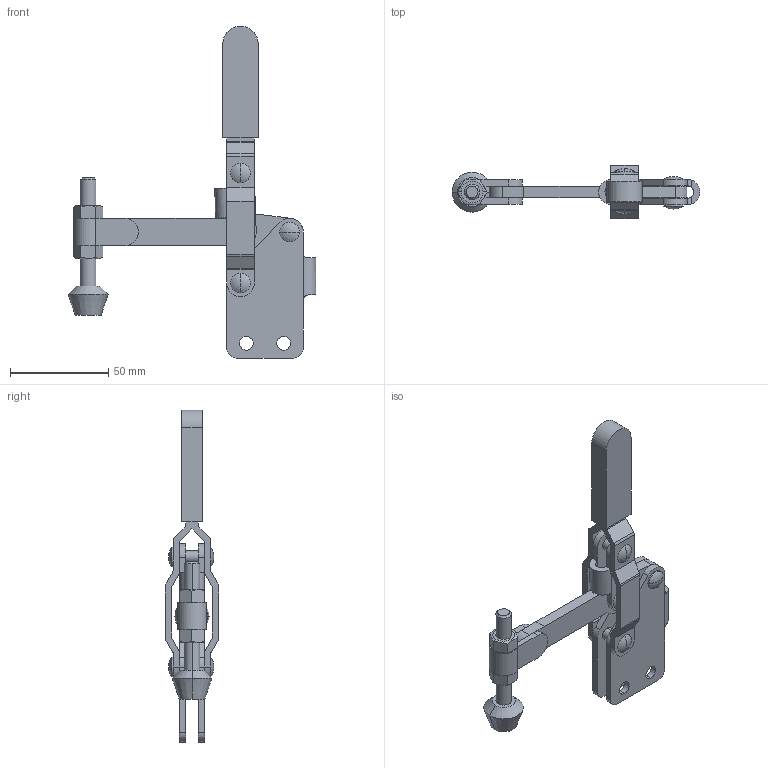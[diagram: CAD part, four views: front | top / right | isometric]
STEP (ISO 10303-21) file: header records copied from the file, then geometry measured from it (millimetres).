
FILE_DESCRIPTION(('CATIA V5 STEP Exchange'),'2;1');
FILE_NAME('D:\Model\toggle\toggle_standard\KJF_018_15S.stp','2005-06-24T05:00:48+00:00',('none'),('none'),'CATIA Version 5 Release 11 (IN-9)','CATIA V5 STEP AP203',' none');
FILE_SCHEMA(('CONFIG_CONTROL_DESIGN'));
Length unit declared in the file: millimetre
Products named in the file (1): Part1
Bounding box: 126.24 x 27.2 x 169.2 mm (x, y, z)
Volume: 58201.5 mm3; surface area: 36448.9 mm2
Topology: 12 solids, 12 shells, 240 faces, 616 edges, 394 vertices
Faces by surface type: plane 105, cylinder 105, sphere 20, cone 6, torus 4
Entity records: 6919 total; most frequent: CARTESIAN_POINT 1398, ORIENTED_EDGE 1200, DIRECTION 922, EDGE_CURVE 600, AXIS2_PLACEMENT_3D 432, VERTEX_POINT 394, VECTOR 318, LINE 318
